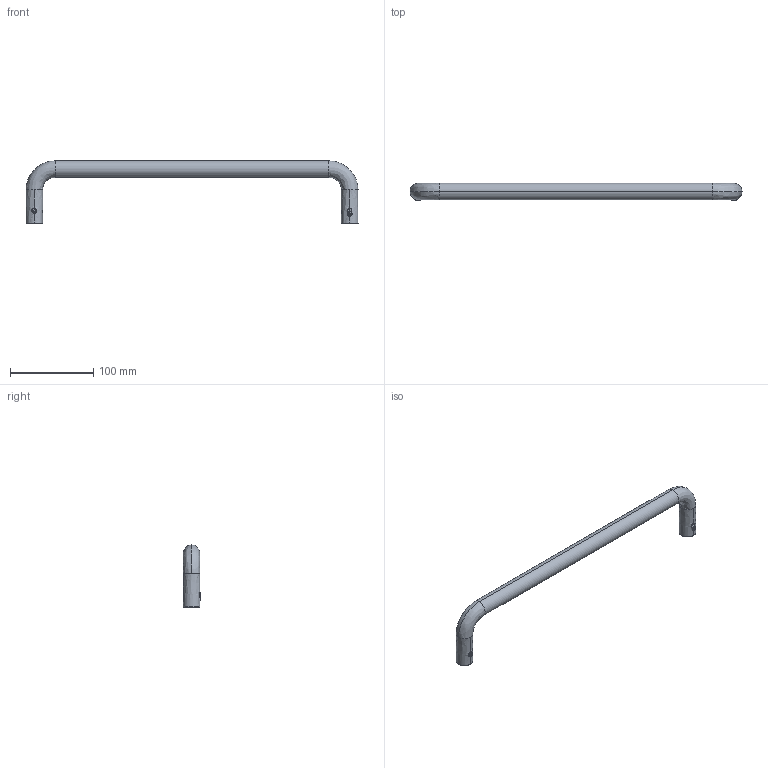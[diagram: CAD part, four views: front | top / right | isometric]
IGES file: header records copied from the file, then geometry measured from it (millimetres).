
Start section: SolidWorks IGES file using analytic representation for surfaces
Global section: file name: G:\Projects\New project\For Marketing\IGS\IGS\2015-12-18\2380664VW.IGS; native system: SolidWorks 2010; preprocessor: SolidWorks 2010; author: linda; date: 151214.161413; units: millimetre
Bounding box: 400 x 21 x 75 mm (x, y, z)
Surface area: 35434.8 mm2 (no closed solid volume)
Topology: 0 solids, 0 shells, 49 faces, 620 edges, 620 vertices
Faces by surface type: revolution 28, bspline 21
